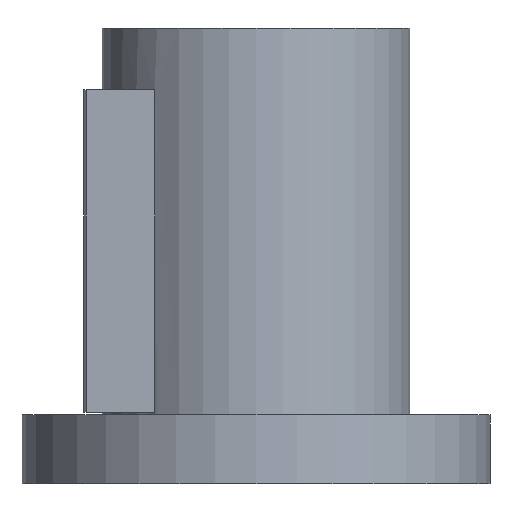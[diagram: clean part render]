
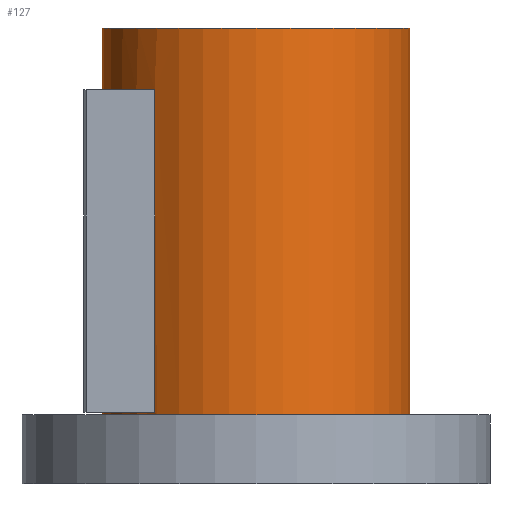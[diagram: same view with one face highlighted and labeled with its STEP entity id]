
A CAD part, front view. The second image highlights one B-rep face of the part: STEP entity #127.
In plain terms, the highlighted cylindrical face has radius 62.5 mm (diameter 125 mm), a full revolution.
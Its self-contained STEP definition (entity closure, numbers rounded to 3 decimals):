
#127=ADVANCED_FACE('',(#200,#201,#202),#155,.T.);
#155=CYLINDRICAL_SURFACE('',#508,62.5);
#168=LINE('',#698,#184);
#169=LINE('',#702,#185);
#184=VECTOR('',#568,1.);
#185=VECTOR('',#571,1.);
#200=FACE_BOUND('',#245,.T.);
#201=FACE_BOUND('',#246,.T.);
#202=FACE_BOUND('',#247,.T.);
#245=EDGE_LOOP('',(#305));
#246=EDGE_LOOP('',(#306));
#247=EDGE_LOOP('',(#307,#308,#309,#310));
#305=ORIENTED_EDGE('',*,*,#431,.F.);
#306=ORIENTED_EDGE('',*,*,#432,.T.);
#307=ORIENTED_EDGE('',*,*,#433,.F.);
#308=ORIENTED_EDGE('',*,*,#434,.F.);
#309=ORIENTED_EDGE('',*,*,#435,.T.);
#310=ORIENTED_EDGE('',*,*,#436,.F.);
#393=VERTEX_POINT('',#692);
#394=VERTEX_POINT('',#694);
#395=VERTEX_POINT('',#696);
#396=VERTEX_POINT('',#697);
#397=VERTEX_POINT('',#699);
#398=VERTEX_POINT('',#701);
#431=EDGE_CURVE('',#393,#393,#475,.T.);
#432=EDGE_CURVE('',#394,#394,#476,.T.);
#433=EDGE_CURVE('',#395,#396,#477,.T.);
#434=EDGE_CURVE('',#397,#395,#168,.T.);
#435=EDGE_CURVE('',#397,#398,#478,.T.);
#436=EDGE_CURVE('',#396,#398,#169,.T.);
#475=CIRCLE('',#504,62.5);
#476=CIRCLE('',#505,62.5);
#477=CIRCLE('',#506,62.5);
#478=CIRCLE('',#507,62.5);
#504=AXIS2_PLACEMENT_3D('',#691,#562,#563);
#505=AXIS2_PLACEMENT_3D('',#693,#564,#565);
#506=AXIS2_PLACEMENT_3D('',#695,#566,#567);
#507=AXIS2_PLACEMENT_3D('',#700,#569,#570);
#508=AXIS2_PLACEMENT_3D('',#703,#572,#573);
#562=DIRECTION('',(0.,0.,1.));
#563=DIRECTION('',(1.,0.,0.));
#564=DIRECTION('',(0.,0.,1.));
#565=DIRECTION('',(1.,0.,0.));
#566=DIRECTION('',(0.,0.,-1.));
#567=DIRECTION('',(-1.,0.,0.));
#568=DIRECTION('',(0.,0.,1.));
#569=DIRECTION('',(0.,0.,-1.));
#570=DIRECTION('',(-1.,0.,0.));
#571=DIRECTION('',(0.,0.,-1.));
#572=DIRECTION('',(0.,0.,-1.));
#573=DIRECTION('',(-1.,0.,0.));
#691=CARTESIAN_POINT('',(0.,0.,185.));
#692=CARTESIAN_POINT('',(62.5,0.,185.));
#693=CARTESIAN_POINT('',(0.,0.,28.));
#694=CARTESIAN_POINT('',(62.5,0.,28.));
#695=CARTESIAN_POINT('',(0.,0.,160.));
#696=CARTESIAN_POINT('',(-41.198,-47.,160.));
#697=CARTESIAN_POINT('',(-41.198,47.,160.));
#698=CARTESIAN_POINT('',(-41.198,-47.,185.));
#699=CARTESIAN_POINT('',(-41.198,-47.,29.));
#700=CARTESIAN_POINT('',(0.,0.,29.));
#701=CARTESIAN_POINT('',(-41.198,47.,29.));
#702=CARTESIAN_POINT('',(-41.198,47.,185.));
#703=CARTESIAN_POINT('',(0.,0.,185.));
